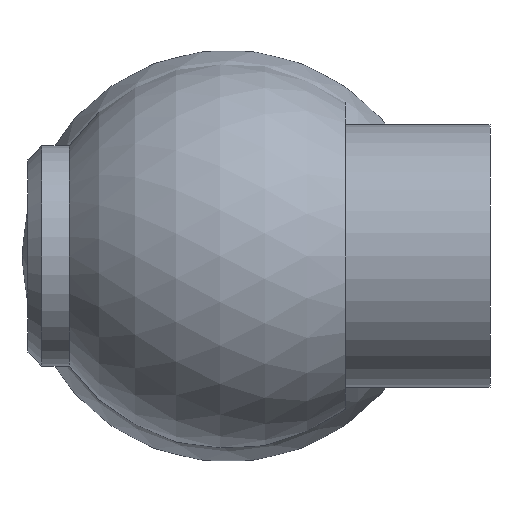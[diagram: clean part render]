
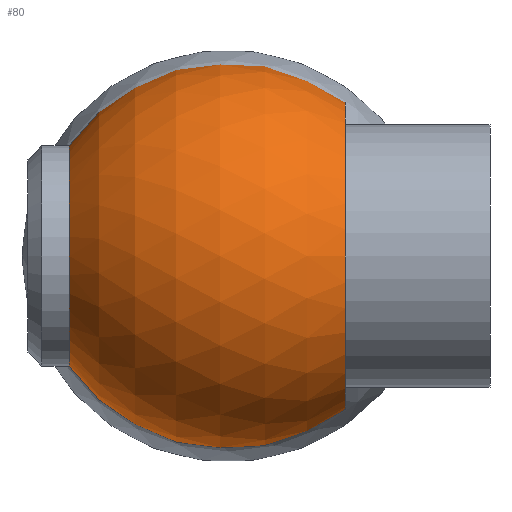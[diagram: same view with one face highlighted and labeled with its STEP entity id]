
A CAD part, left-side view. The second image highlights one B-rep face of the part: STEP entity #80.
In plain terms, the highlighted spherical face has radius 14 mm.
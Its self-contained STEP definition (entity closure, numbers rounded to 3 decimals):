
#80 = ADVANCED_FACE( '', ( #106, #107, #108 ), #109, .T. );
#106 = FACE_OUTER_BOUND( '', #151, .T. );
#107 = FACE_BOUND( '', #152, .T. );
#108 = FACE_OUTER_BOUND( '', #153, .T. );
#109 = SPHERICAL_SURFACE( '', #154, 14. );
#151 = EDGE_LOOP( '', ( #206 ) );
#152 = EDGE_LOOP( '', ( #207 ) );
#153 = EDGE_LOOP( '', ( #208 ) );
#154 = AXIS2_PLACEMENT_3D( '', #209, #210, #211 );
#206 = ORIENTED_EDGE( '', *, *, #264, .T. );
#207 = ORIENTED_EDGE( '', *, *, #259, .T. );
#208 = ORIENTED_EDGE( '', *, *, #265, .F. );
#209 = CARTESIAN_POINT( '', ( 0., 19., 0. ) );
#210 = DIRECTION( '', ( 0., -1., 0. ) );
#211 = DIRECTION( '', ( 1., 0., 0. ) );
#259 = EDGE_CURVE( '', #276, #276, #277, .T. );
#264 = EDGE_CURVE( '', #286, #286, #287, .T. );
#265 = EDGE_CURVE( '', #288, #288, #289, .T. );
#276 = VERTEX_POINT( '', #304 );
#277 = CIRCLE( '', #305, 6.5 );
#286 = VERTEX_POINT( '', #314 );
#287 = CIRCLE( '', #315, 7.984 );
#288 = VERTEX_POINT( '', #316 );
#289 = CIRCLE( '', #317, 11.124 );
#304 = CARTESIAN_POINT( '', ( 12.4, 19., 6.5 ) );
#305 = AXIS2_PLACEMENT_3D( '', #334, #335, #336 );
#314 = CARTESIAN_POINT( '', ( 7.984, 30.5, 0. ) );
#315 = AXIS2_PLACEMENT_3D( '', #349, #350, #351 );
#316 = CARTESIAN_POINT( '', ( 11.124, 10.5, 0. ) );
#317 = AXIS2_PLACEMENT_3D( '', #352, #353, #354 );
#334 = CARTESIAN_POINT( '', ( 12.4, 19., 0. ) );
#335 = DIRECTION( '', ( -1., 0., 0. ) );
#336 = DIRECTION( '', ( 0., 0., 1. ) );
#349 = CARTESIAN_POINT( '', ( 0., 30.5, 0. ) );
#350 = DIRECTION( '', ( 0., -1., 0. ) );
#351 = DIRECTION( '', ( 1., 0., 0. ) );
#352 = CARTESIAN_POINT( '', ( 0., 10.5, 0. ) );
#353 = DIRECTION( '', ( 0., -1., 0. ) );
#354 = DIRECTION( '', ( 1., 0., 0. ) );
